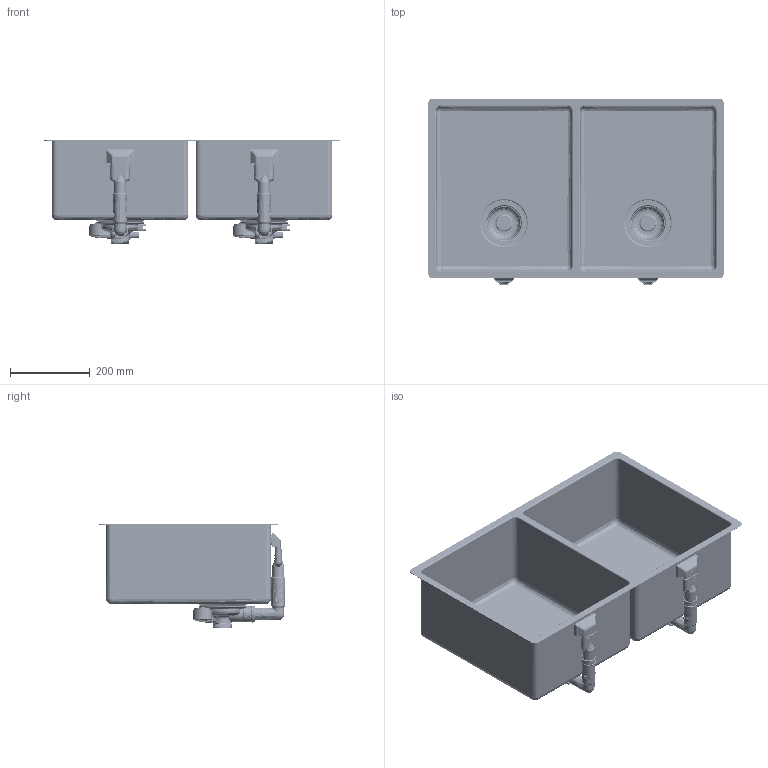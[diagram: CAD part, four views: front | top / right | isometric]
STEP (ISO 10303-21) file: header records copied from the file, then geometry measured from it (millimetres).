
FILE_DESCRIPTION(('STEP AP214'),'1');
FILE_NAME('J:/2016/CLX/FRANKE/materiale ricevuto/Sinks/Sinks/Franke Box/Requested/220_120 34-34/BXX_220_120_34-34.stp','2016-04-08T11:44:35',(' '),(' '),'Spatial InterOp 3D',' ',' ');
FILE_SCHEMA(('automotive_design'));
Length unit declared in the file: millimetre
Products named in the file (11): 1; 2; 3; 4; 5; 6; 7; 8; 9; 10; 11
Bounding box: 740 x 467.5 x 259.67 mm (x, y, z)
Volume: 1262150.3 mm3; surface area: 2169508 mm2
Topology: 11 solids, 27 shells, 11220 faces, 30416 edges, 19723 vertices
Faces by surface type: bspline 11220
Entity records: 474444 total; most frequent: CARTESIAN_POINT 240080, ORIENTED_EDGE 59608, EDGE_CURVE 29804, DIRECTION 27442, VERTEX_POINT 19594, LINE 18956, VECTOR 18956, EDGE_LOOP 12400
